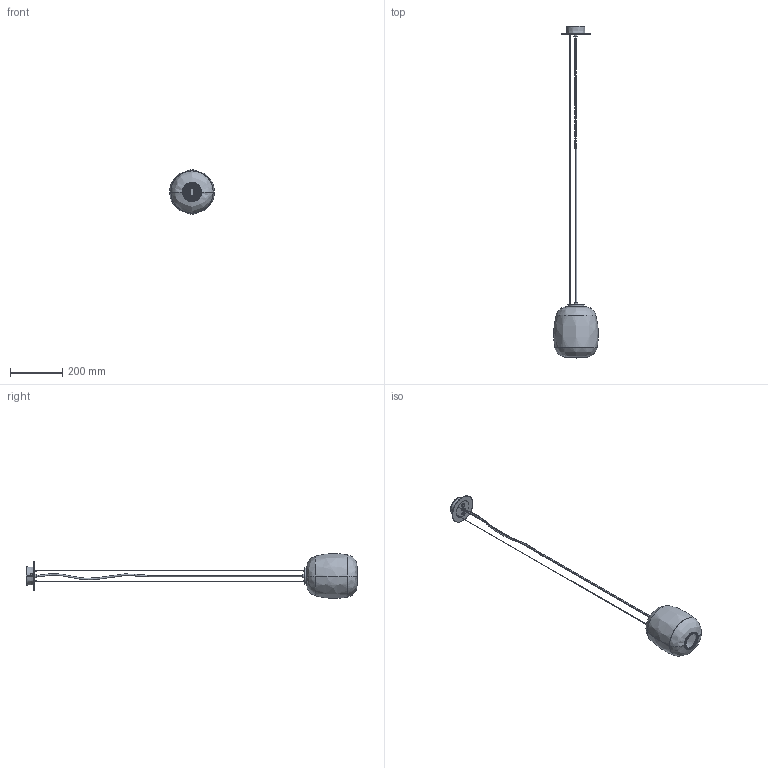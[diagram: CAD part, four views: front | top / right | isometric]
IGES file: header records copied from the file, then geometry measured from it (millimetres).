
Start section: SolidWorks IGES file using analytic representation for surfaces
Global section: file name: C:\Users\berta.gumma\OneDrive - santa &cole\Desktop\Globo cestita ce.IGS; native system: SolidWorks 2021; preprocessor: SolidWorks 2021; author: berta.gumma; date: 230922.100006; units: millimetre
Bounding box: 171.63 x 1272.2 x 171.62 mm (x, y, z)
Surface area: 328541.5 mm2 (no closed solid volume)
Topology: 0 solids, 0 shells, 615 faces, 8776 edges, 8774 vertices
Faces by surface type: revolution 313, bspline 302
